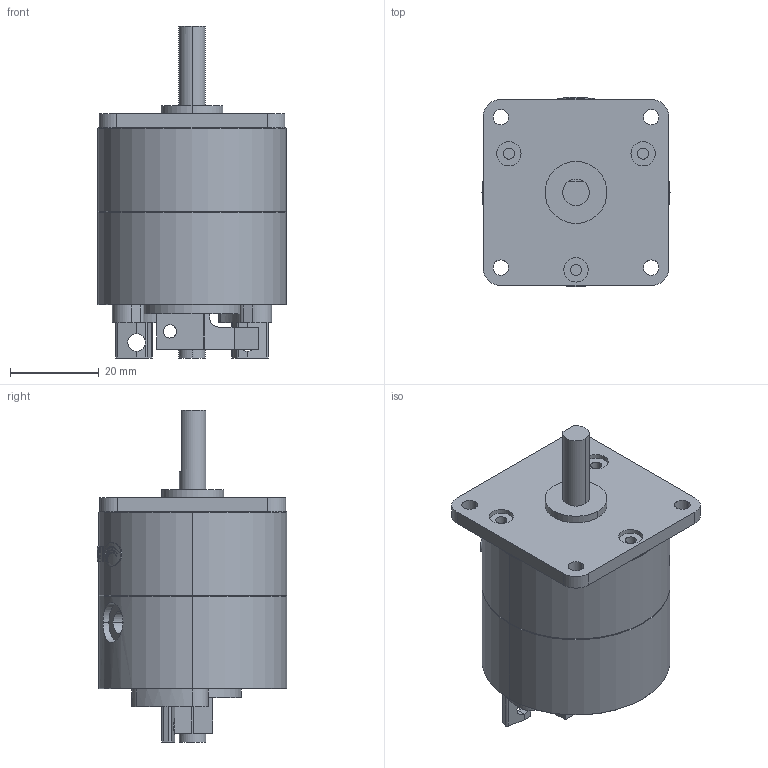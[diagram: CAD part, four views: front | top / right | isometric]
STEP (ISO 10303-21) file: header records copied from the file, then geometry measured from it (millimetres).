
FILE_DESCRIPTION (( 'STEP AP203' ), '1' );
FILE_NAME ('PROA10S-#-#-P.STEP', '2016-02-04T07:01:40', ( 'Sam Lin' ), ( '' ), 'SwSTEP 2.0', 'SolidWorks 2013', '' );
FILE_SCHEMA (( 'CONFIG_CONTROL_DESIGN' ));
Length unit declared in the file: metre
Products named in the file (9): PROA10S-#-# (1); PROA10S-#-# (5); PROA10S-#-# (6); PROA10S-#-# (2); mark-PROA10S; PROA10S-#-#-P (7); PROA10S-#-#-P; PROA10S-#-# (3); PROA10S-#-# (4)
Assembly tree (8 placements, depth 2):
  PROA10S-#-#-P
    PROA10S-#-# (3)
    PROA10S-#-# (4)
    PROA10S-#-# (1)
    PROA10S-#-# (5)
    PROA10S-#-# (6)
    PROA10S-#-# (2)
    mark-PROA10S
    PROA10S-#-#-P (7)
Bounding box: 42.5 x 42.8 x 75 mm (x, y, z)
Volume: 64591.3 mm3; surface area: 21583.8 mm2
Topology: 14 solids, 14 shells, 383 faces, 923 edges, 603 vertices
Faces by surface type: cylinder 190, plane 140, bspline 35, cone 18
Entity records: 16492 total; most frequent: CARTESIAN_POINT 6549, DIRECTION 1880, ORIENTED_EDGE 1826, EDGE_CURVE 913, AXIS2_PLACEMENT_3D 732, VERTEX_POINT 603, EDGE_LOOP 474, VECTOR 416
